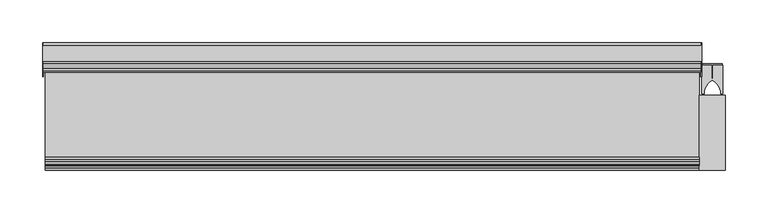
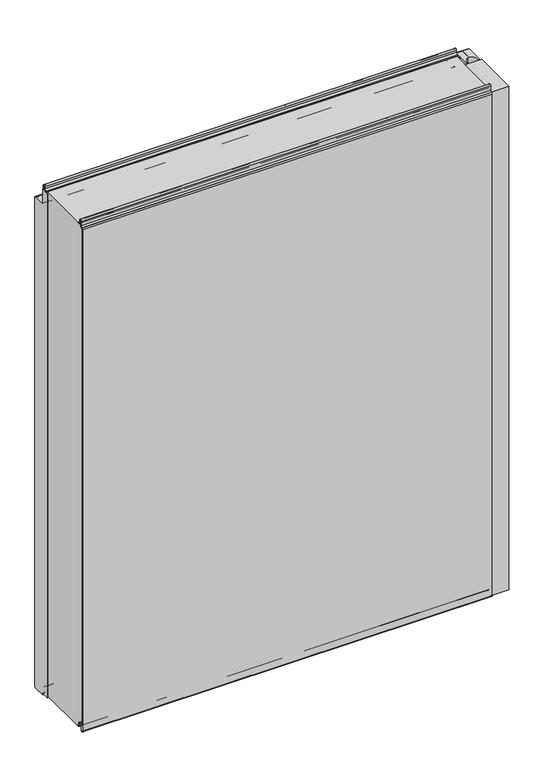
"""IFC4 building model written with IfcOpenShell, lengths in millimetres: plate geometry, Fronttop : Fronttop 150/1000."""

import ifcopenshell
import ifcopenshell.guid

model = None  # the IFC model being written
_history = None  # IfcOwnerHistory: only IFC2X3 demands one
_inside = {}  # id of a spatial element -> (the spatial element, [elements in it])
_under = {}  # id of a project, library or spatial element -> (it, [spatial elements below it])
_declared = {}  # id of a project -> (the project, [libraries it declares])
_typed = {}  # id of a type object -> (the type object, [elements of that type])
_made_of = {}  # id of a material, layer set ... -> (it, [elements and type objects made of it])


def new_model(schema):
    """Start an empty IFC model of exactly this schema.

    Asked for "IFC4X3", IfcOpenShell would pick the latest addendum, in which some entities
    have other attributes; the version numbers below select the first issue.
    IFC2X3 requires an IfcOwnerHistory on every rooted entity: one is made here for all.
    """
    global model, _history
    if schema == "IFC4X3":
        model = ifcopenshell.file(schema_version=(4, 3, 0, 0))
    else:
        model = ifcopenshell.file(schema=schema)
    _inside.clear()
    _under.clear()
    _declared.clear()
    _typed.clear()
    _made_of.clear()
    _history = None
    if model.schema == "IFC2X3":
        org = make("IfcOrganization", Name="unknown")
        user = make(
            "IfcPersonAndOrganization",
            ThePerson=make("IfcPerson", FamilyName="unknown"),
            TheOrganization=org,
        )
        app = make(
            "IfcApplication",
            ApplicationDeveloper=org,
            Version="unknown",
            ApplicationFullName="unknown",
            ApplicationIdentifier="unknown",
        )
        _history = make(
            "IfcOwnerHistory",
            OwningUser=user,
            OwningApplication=app,
            ChangeAction="ADDED",
            CreationDate=0,
        )
    return model


def make(cls, **values):
    """One entity of the class cls with the attributes given. An attribute that is None is left unset."""
    return model.create_entity(
        cls, **{name: value for name, value in values.items() if value is not None}
    )


def rooted(cls, **values):
    """An entity with a GlobalId (a new one), such as an element, a storey or a relation."""
    return make(cls, GlobalId=ifcopenshell.guid.new(), OwnerHistory=_history, **values)


def si_unit(unit_type, name, prefix=None):
    """IfcSIUnit, for example si_unit("LENGTHUNIT", "METRE", prefix="MILLI")."""
    return make("IfcSIUnit", UnitType=unit_type, Prefix=prefix, Name=name)


def assignment(units):
    """IfcUnitAssignment: the units of a project."""
    return None if units is None else make("IfcUnitAssignment", Units=units)


def point(xyz):
    """IfcCartesianPoint."""
    return None if xyz is None else make("IfcCartesianPoint", Coordinates=xyz)


def direction(xyz):
    """IfcDirection."""
    return None if xyz is None else make("IfcDirection", DirectionRatios=xyz)


def frame(location, z_axis=None, x_axis=None):
    """IfcAxis2Placement3D, a coordinate frame: its origin and axes. An axis left out is left unset."""
    return make(
        "IfcAxis2Placement3D",
        Location=point(location),
        Axis=direction(z_axis),
        RefDirection=direction(x_axis),
    )


def frame_2d(location, x_axis=None):
    """IfcAxis2Placement2D, a coordinate frame in the plane: its origin and x axis."""
    return make(
        "IfcAxis2Placement2D", Location=point(location), RefDirection=direction(x_axis)
    )


def origin():
    """The frame at (0, 0, 0) with its axes left unset."""
    return frame((0.0, 0.0, 0.0))


def origin_with_axes():
    """The frame at (0, 0, 0) with the z axis (0, 0, 1) and the x axis (1, 0, 0) written out."""
    return frame((0.0, 0.0, 0.0), z_axis=(0.0, 0.0, 1.0), x_axis=(1.0, 0.0, 0.0))


def place(relative_to, where):
    """IfcLocalPlacement: puts the frame where relative to a parent placement (None: the world)."""
    return make(
        "IfcLocalPlacement", PlacementRelTo=relative_to, RelativePlacement=where
    )


def context(
    kind, dimensions, precision=None, world=None, true_north=None, identifier=None
):
    """IfcGeometricRepresentationContext, for example the 3D "Model" context."""
    return make(
        "IfcGeometricRepresentationContext",
        ContextIdentifier=identifier,
        ContextType=kind,
        CoordinateSpaceDimension=dimensions,
        Precision=precision,
        WorldCoordinateSystem=world,
        TrueNorth=true_north,
    )


def project(units=None, contexts=None):
    """IfcProject with its units and contexts."""
    return rooted(
        "IfcProject",
        Name="project",
        RepresentationContexts=contexts,
        UnitsInContext=assignment(units),
    )


def spatial(cls, under=None, at=None, **own):
    """A site, building, storey or space (cls), placed at a placement, below another one or the project."""
    s = rooted(cls, ObjectPlacement=at, **own)
    if under is not None:
        _under.setdefault(under.id(), (under, []))[1].append(s)
    return s


def polyline(points):
    """IfcPolyline through the points."""
    return make("IfcPolyline", Points=[point(p) for p in points])


def circle_curve(where, radius):
    """IfcCircle in the frame where."""
    return make("IfcCircle", Position=where, Radius=radius)


def trimmed(basis, trim1, trim2, sense, master):
    """IfcTrimmedCurve: the piece of a basis curve between two trims."""
    return make(
        "IfcTrimmedCurve",
        BasisCurve=basis,
        Trim1=trim1,
        Trim2=trim2,
        SenseAgreement=sense,
        MasterRepresentation=master,
    )


def segment(curve, same_sense, transition):
    """IfcCompositeCurveSegment."""
    return make(
        "IfcCompositeCurveSegment",
        Transition=transition,
        SameSense=same_sense,
        ParentCurve=curve,
    )


def composite_curve(segments, self_intersect=None):
    """IfcCompositeCurve: segments joined end to end."""
    return make("IfcCompositeCurve", Segments=segments, SelfIntersect=self_intersect)


def outline(outer, holes=None, kind="AREA"):
    """IfcArbitraryClosedProfileDef: a profile drawn as a closed curve; with holes, ...WithVoids."""
    if holes is None:
        return make("IfcArbitraryClosedProfileDef", ProfileType=kind, OuterCurve=outer)
    return make(
        "IfcArbitraryProfileDefWithVoids",
        ProfileType=kind,
        OuterCurve=outer,
        InnerCurves=holes,
    )


def extrude(swept, where, along, depth):
    """IfcExtrudedAreaSolid: the profile swept, set in the frame where, extruded along a direction by depth."""
    return make(
        "IfcExtrudedAreaSolid",
        SweptArea=swept,
        Position=where,
        ExtrudedDirection=direction(along),
        Depth=depth,
    )


def shape(context_of_items, identifier, shape_type, items):
    """IfcShapeRepresentation: the items that make up one representation, for example the "Body"."""
    return make(
        "IfcShapeRepresentation",
        ContextOfItems=context_of_items,
        RepresentationIdentifier=identifier,
        RepresentationType=shape_type,
        Items=items,
    )


def source(mapping_origin, context_of_items, identifier, shape_type, items):
    """IfcRepresentationMap: a shape defined once, which mapped items show again and again."""
    return make(
        "IfcRepresentationMap",
        MappingOrigin=mapping_origin,
        MappedRepresentation=shape(context_of_items, identifier, shape_type, items),
    )


def transform(
    local_origin,
    x_axis=None,
    y_axis=None,
    z_axis=None,
    scale=None,
    scale2=None,
    scale3=None,
    uniform=True,
):
    """IfcCartesianTransformationOperator3D, or its non-uniform kind. x_axis, y_axis, z_axis: its Axis1, 2, 3."""
    if uniform:
        return make(
            "IfcCartesianTransformationOperator3D",
            Axis1=direction(x_axis),
            Axis2=direction(y_axis),
            LocalOrigin=point(local_origin),
            Scale=scale,
            Axis3=direction(z_axis),
        )
    return make(
        "IfcCartesianTransformationOperator3DnonUniform",
        Axis1=direction(x_axis),
        Axis2=direction(y_axis),
        LocalOrigin=point(local_origin),
        Scale=scale,
        Axis3=direction(z_axis),
        Scale2=scale2,
        Scale3=scale3,
    )


def mapped(mapping_source, mapping_target):
    """IfcMappedItem: shows the shape of a source again, moved by a transform."""
    return make(
        "IfcMappedItem", MappingSource=mapping_source, MappingTarget=mapping_target
    )


def made_of(thing, what):
    """Note that an element or type object is made of a material, layer set ...; save() writes the relation."""
    if what is not None:
        _made_of.setdefault(what.id(), (what, []))[1].append(thing)
    return thing


def element(
    cls,
    number,
    at=None,
    inside=None,
    cuts=None,
    type_object=None,
    material=None,
    context=None,
    identifier="Body",
    shape_type=None,
    held_by="IfcProductDefinitionShape",
    body=None,
    shapes=None,
    **own,
):
    """One element of the class cls, such as IfcWall. Its Tag is "e" and its number.

    at: its placement. inside: the storey or other place that contains it. cuts: it is an
    opening in that element (IfcRelVoidsElement). A single representation is given by context,
    identifier, shape_type and body (its items); several are given by shapes. held_by: the class
    of the entity that holds the representations. save() writes the other relations.
    """
    e = rooted(cls, Tag="e%d" % number, ObjectPlacement=at, **own)
    if body is not None:
        shapes = [shape(context, identifier, shape_type, body)]
    if shapes is not None:
        e.Representation = make(held_by, Representations=shapes)
    if inside is not None:
        _inside.setdefault(inside.id(), (inside, []))[1].append(e)
    if cuts is not None:
        rooted(
            "IfcRelVoidsElement", RelatingBuildingElement=cuts, RelatedOpeningElement=e
        )
    if type_object is not None:
        _typed.setdefault(type_object.id(), (type_object, []))[1].append(e)
    return made_of(e, material)


def aggregate(whole, parts):
    """IfcRelAggregates: a whole, such as a stair, and the parts it consists of."""
    return rooted("IfcRelAggregates", RelatingObject=whole, RelatedObjects=parts)


def save(model, path):
    """Write the relations noted so far, then the file.

    IfcRelAggregates (storeys below a building ...), IfcRelContainedInSpatialStructure (elements
    in a storey), IfcRelDefinesByType, IfcRelAssociatesMaterial and IfcRelDeclares: one each for
    every whole, place, type object, material and project.
    """
    for whole, parts in _under.values():
        aggregate(whole, parts)
    for where, things in _inside.values():
        rooted(
            "IfcRelContainedInSpatialStructure",
            RelatedElements=things,
            RelatingStructure=where,
        )
    for kind, things in _typed.values():
        rooted("IfcRelDefinesByType", RelatedObjects=things, RelatingType=kind)
    for what, things in _made_of.values():
        rooted("IfcRelAssociatesMaterial", RelatedObjects=things, RelatingMaterial=what)
    for by, libraries in _declared.values():
        rooted("IfcRelDeclares", RelatingContext=by, RelatedDefinitions=libraries)
    model.write(path)


def plane_surface(at):
    """IfcPlane: the flat surface through the origin of the frame at, square to its z axis."""
    return make("IfcPlane", Position=at)


def cylinder_surface(at, radius):
    """IfcCylindricalSurface: all points at the distance radius from the z axis of the frame at."""
    return make("IfcCylindricalSurface", Position=at, Radius=radius)


def revolved_surface(curve, axis_point, axis_direction):
    """IfcSurfaceOfRevolution: the curve turned about the line through axis_point along axis_direction."""
    return make(
        "IfcSurfaceOfRevolution",
        SweptCurve=make("IfcArbitraryOpenProfileDef", ProfileType="CURVE", Curve=curve),
        AxisPosition=make("IfcAxis1Placement", Location=point(axis_point), Axis=direction(axis_direction)),
    )


def advanced_brep(points, edges, surfaces, faces):
    """IfcAdvancedBrep: a solid bounded by faces that lie on surfaces and meet in shared edges.

    An edge is (start, end): straight between two places in points (the first is 0);
    or (start, end, curve); or (start, end, curve, False) where it runs against its curve.
    A face is (place in surfaces, loops), or (place, loops, False) where it looks against
    its surface's normal. A loop lists edges by number (the first is 1), with a minus sign
    where the edge is run from its end to its start. The first loop is the outer one.
    """
    corners = [point(p) for p in points]
    vertices = [make("IfcVertexPoint", VertexGeometry=c) for c in corners]
    made = []
    for start, end, *more in edges:
        made.append(
            make(
                "IfcEdgeCurve",
                EdgeStart=vertices[start],
                EdgeEnd=vertices[end],
                EdgeGeometry=more[0] if more else make("IfcPolyline", Points=[corners[start], corners[end]]),
                SameSense=more[1] if len(more) > 1 else True,
            )
        )
    hull = []
    for where, loops, *sense in faces:
        bounds = []
        for j, loop in enumerate(loops):
            ring = [make("IfcOrientedEdge", EdgeElement=made[abs(k) - 1], Orientation=k > 0) for k in loop]
            bounds.append(
                make(
                    "IfcFaceOuterBound" if j == 0 else "IfcFaceBound",
                    Bound=make("IfcEdgeLoop", EdgeList=ring),
                    Orientation=True,
                )
            )
        hull.append(make("IfcAdvancedFace", Bounds=bounds, FaceSurface=surfaces[where], SameSense=sense[0] if sense else True))
    return make("IfcAdvancedBrep", Outer=make("IfcClosedShell", CfsFaces=hull))


def plate_a95caa87(model_context):
    return source(origin(), model_context, "Body", "SolidModel", [
        advanced_brep(
        [(-386.5, 124.0, 1008.0), (-386.5, 121.0, 1008.0), (-386.5, 121.0, 1004.0), (-386.5, 117.0, 1000.0), (-386.5, 115.0, 1000.0), (-386.5, 115.0, 1001.0), (-386.5, 117.0, 1001.0), (-386.5, 120.0, 1004.0), (-386.5, 120.0, 1008.0), (-386.5, 125.0, 1008.0), (-386.5, 125.0, 1000.0), (-386.5, 124.0, 1000.0), (386.5, 125.0, 1008.0), (386.5, 120.0, 1008.0), (386.5, 120.0, 1004.0), (386.5, 117.0, 1001.0), (386.5, 115.0, 1001.0), (386.5, 115.0, 1000.0), (386.5, 117.0, 1000.0), (386.5, 121.0, 1004.0), (386.5, 121.0, 1008.0), (386.5, 124.0, 1008.0), (386.5, 124.0, 1000.0), (386.5, 125.0, 1000.0), (-386.5, 117.0, 2.0), (386.5, 117.0, 2.0), (386.5, 115.0, 2.0), (-386.5, 115.0, 2.0), (-386.5, 119.0, 4.0), (386.5, 119.0, 4.0), (-386.5, 119.0, 8.0), (386.5, 119.0, 8.0), (-386.5, 126.0, 8.0), (386.5, 126.0, 8.0), (-386.5, 126.0, 0.0), (386.5, 126.0, 0.0), (-386.5, 129.0, -3.0), (386.5, 129.0, -3.0), (-386.5, 125.0, -3.0), (-387.5, 125.0, -3.0), (-387.5, 147.0, -3.0), (-386.5, 147.0, -3.0), (386.5, 147.0, -3.0), (387.5, 147.0, -3.0), (387.5, 125.0, -3.0), (386.5, 125.0, -3.0), (-386.5, 150.0, 0.0), (386.5, 150.0, 0.0), (-387.5, 150.0, 0.0), (-387.5, 150.0, 969.0), (-386.5, 150.0, 969.0), (386.5, 150.0, 969.0), (387.5, 150.0, 969.0), (387.5, 150.0, 0.0), (-386.5, 147.0, 972.0), (386.5, 147.0, 972.0), (-387.5, 147.0, 972.0), (-387.5, 128.0, 972.0), (-386.5, 128.0, 972.0), (386.5, 128.0, 972.0), (387.5, 128.0, 972.0), (387.5, 147.0, 972.0), (-386.5, 125.0, 975.0), (386.5, 125.0, 975.0), (-387.5, 125.0, 975.0), (-387.5, 125.0, 1000.0), (387.5, 125.0, 1000.0), (387.5, 125.0, 975.0), (-386.5, 124.0, 975.0), (386.5, 124.0, 975.0), (-386.5, 128.0, 971.0), (386.5, 128.0, 971.0), (-386.5, 147.0, 971.0), (386.5, 147.0, 971.0), (-386.5, 149.0, 969.0), (386.5, 149.0, 969.0), (-386.5, 149.0, 0.0), (386.5, 149.0, 0.0), (-386.5, 147.0, -2.0), (386.5, 147.0, -2.0), (-386.5, 129.0, -2.0), (386.5, 129.0, -2.0), (-386.5, 127.0, 0.0), (386.5, 127.0, 0.0), (-386.5, 127.0, 8.0), (386.5, 127.0, 8.0), (-386.5, 118.0, 8.0), (386.5, 118.0, 8.0), (-386.5, 118.0, 4.0), (386.5, 118.0, 4.0), (-386.5, 117.0, 3.0), (386.5, 117.0, 3.0), (-386.5, 115.0, 3.0), (386.5, 115.0, 3.0), (387.5, 110.0, 1000.0), (387.5, 110.0, 0.0), (387.5, 125.0, 0.0), (386.5, 125.0, 0.0), (386.5, 110.0, 0.0), (386.5, 110.0, 1000.0), (-387.5, 125.0, 0.0), (-387.5, 110.0, 0.0), (-387.5, 110.0, 1000.0), (-386.5, 110.0, 1000.0), (-386.5, 110.0, 0.0), (-386.5, 125.0, 0.0)],
        [
            (0, 1, circle_curve(frame((-386.5, 122.5, 1008.0), z_axis=(1.0, 0.0, 0.0), x_axis=(0.0, -1.0, 0.0)), 1.5)),
            (1, 2),
            (2, 3, circle_curve(frame((-386.5, 117.0, 1004.0), z_axis=(-1.0, 0.0, 0.0), x_axis=(0.0, -1.0, 0.0)), 4.0)),
            (3, 4),
            (4, 5),
            (5, 6),
            (6, 7, circle_curve(frame((-386.5, 117.0, 1004.0), z_axis=(1.0, 0.0, 0.0), x_axis=(0.0, -1.0, 0.0)), 3.0)),
            (7, 8),
            (8, 9, circle_curve(frame((-386.5, 122.5, 1008.0), z_axis=(-1.0, 0.0, 0.0), x_axis=(0.0, -1.0, 0.0)), 2.5)),
            (9, 10),
            (10, 11),
            (11, 0),
            (12, 13, circle_curve(frame((386.5, 122.5, 1008.0), z_axis=(1.0, 0.0, 0.0), x_axis=(0.0, -1.0, 0.0)), 2.5)),
            (13, 14),
            (14, 15, circle_curve(frame((386.5, 117.0, 1004.0), z_axis=(-1.0, 0.0, 0.0), x_axis=(0.0, -1.0, 0.0)), 3.0)),
            (15, 16),
            (16, 17),
            (17, 18),
            (18, 19, circle_curve(frame((386.5, 117.0, 1004.0), z_axis=(1.0, 0.0, 0.0), x_axis=(0.0, -1.0, 0.0)), 4.0)),
            (19, 20),
            (20, 21, circle_curve(frame((386.5, 122.5, 1008.0), z_axis=(-1.0, 0.0, 0.0), x_axis=(0.0, -1.0, 0.0)), 1.5)),
            (21, 22),
            (22, 23),
            (23, 12),
            (24, 25),
            (25, 26),
            (26, 27),
            (27, 24),
            (24, 28, circle_curve(frame((-386.5, 117.0, 4.0), z_axis=(1.0, 0.0, 0.0), x_axis=(0.0, -1.0, 0.0)), 2.0)),
            (28, 29),
            (29, 25, circle_curve(frame((386.5, 117.0, 4.0), z_axis=(-1.0, 0.0, 0.0), x_axis=(0.0, -1.0, 0.0)), 2.0)),
            (28, 30),
            (30, 31),
            (31, 29),
            (30, 32, circle_curve(frame((-386.5, 122.5, 8.0), z_axis=(-1.0, 0.0, 0.0), x_axis=(0.0, -1.0, 0.0)), 3.5)),
            (32, 33),
            (33, 31, circle_curve(frame((386.5, 122.5, 8.0), z_axis=(1.0, 0.0, 0.0), x_axis=(0.0, -1.0, 0.0)), 3.5)),
            (32, 34),
            (34, 35),
            (35, 33),
            (34, 36, circle_curve(frame((-386.5, 129.0, 0.0), z_axis=(1.0, 0.0, 0.0), x_axis=(0.0, -1.0, 0.0)), 3.0)),
            (36, 37),
            (37, 35, circle_curve(frame((386.5, 129.0, 0.0), z_axis=(-1.0, 0.0, 0.0), x_axis=(0.0, -1.0, 0.0)), 3.0)),
            (36, 38),
            (38, 39),
            (39, 40),
            (40, 41),
            (41, 42),
            (42, 43),
            (43, 44),
            (44, 45),
            (45, 37),
            (41, 46, circle_curve(frame((-386.5, 147.0, 0.0), z_axis=(1.0, 0.0, 0.0), x_axis=(0.0, -1.0, 0.0)), 3.0)),
            (46, 47),
            (47, 42, circle_curve(frame((386.5, 147.0, 0.0), z_axis=(-1.0, 0.0, 0.0), x_axis=(0.0, -1.0, 0.0)), 3.0)),
            (46, 48),
            (48, 49),
            (49, 50),
            (50, 51),
            (51, 52),
            (52, 53),
            (53, 47),
            (50, 54, circle_curve(frame((-386.5, 147.0, 969.0), z_axis=(1.0, 0.0, 0.0), x_axis=(0.0, -1.0, 0.0)), 3.0)),
            (54, 55),
            (55, 51, circle_curve(frame((386.5, 147.0, 969.0), z_axis=(-1.0, 0.0, 0.0), x_axis=(0.0, -1.0, 0.0)), 3.0)),
            (54, 56),
            (56, 57),
            (57, 58),
            (58, 59),
            (59, 60),
            (60, 61),
            (61, 55),
            (58, 62, circle_curve(frame((-386.5, 128.0, 975.0), z_axis=(-1.0, 0.0, 0.0), x_axis=(0.0, -1.0, 0.0)), 3.0)),
            (62, 63),
            (63, 59, circle_curve(frame((386.5, 128.0, 975.0), z_axis=(1.0, 0.0, 0.0), x_axis=(0.0, -1.0, 0.0)), 3.0)),
            (62, 64),
            (64, 65),
            (65, 10),
            (9, 12),
            (23, 66),
            (66, 67),
            (67, 63),
            (8, 13),
            (7, 14),
            (6, 15),
            (5, 16),
            (4, 17),
            (4, 3),
            (3, 18),
            (18, 17),
            (2, 19),
            (1, 20),
            (0, 21),
            (11, 68),
            (68, 69),
            (69, 22),
            (68, 70, circle_curve(frame((-386.5, 128.0, 975.0), z_axis=(1.0, 0.0, 0.0), x_axis=(0.0, -1.0, 0.0)), 4.0)),
            (70, 71),
            (71, 69, circle_curve(frame((386.5, 128.0, 975.0), z_axis=(-1.0, 0.0, 0.0), x_axis=(0.0, -1.0, 0.0)), 4.0)),
            (70, 72),
            (72, 73),
            (73, 71),
            (72, 74, circle_curve(frame((-386.5, 147.0, 969.0), z_axis=(-1.0, 0.0, 0.0), x_axis=(0.0, -1.0, 0.0)), 2.0)),
            (74, 75),
            (75, 73, circle_curve(frame((386.5, 147.0, 969.0), z_axis=(1.0, 0.0, 0.0), x_axis=(0.0, -1.0, 0.0)), 2.0)),
            (74, 76),
            (76, 77),
            (77, 75),
            (76, 78, circle_curve(frame((-386.5, 147.0, 0.0), z_axis=(-1.0, 0.0, 0.0), x_axis=(0.0, -1.0, 0.0)), 2.0)),
            (78, 79),
            (79, 77, circle_curve(frame((386.5, 147.0, 0.0), z_axis=(1.0, 0.0, 0.0), x_axis=(0.0, -1.0, 0.0)), 2.0)),
            (78, 80),
            (80, 81),
            (81, 79),
            (80, 82, circle_curve(frame((-386.5, 129.0, 0.0), z_axis=(-1.0, 0.0, 0.0), x_axis=(0.0, -1.0, 0.0)), 2.0)),
            (82, 83),
            (83, 81, circle_curve(frame((386.5, 129.0, 0.0), z_axis=(1.0, 0.0, 0.0), x_axis=(0.0, -1.0, 0.0)), 2.0)),
            (82, 84),
            (84, 85),
            (85, 83),
            (84, 86, circle_curve(frame((-386.5, 122.5, 8.0), z_axis=(1.0, 0.0, 0.0), x_axis=(0.0, -1.0, 0.0)), 4.5)),
            (86, 87),
            (87, 85, circle_curve(frame((386.5, 122.5, 8.0), z_axis=(-1.0, 0.0, 0.0), x_axis=(0.0, -1.0, 0.0)), 4.5)),
            (86, 88),
            (88, 89),
            (89, 87),
            (88, 90, circle_curve(frame((-386.5, 117.0, 4.0), z_axis=(-1.0, 0.0, 0.0), x_axis=(0.0, -1.0, 0.0)), 1.0)),
            (90, 91),
            (91, 89, circle_curve(frame((386.5, 117.0, 4.0), z_axis=(1.0, 0.0, 0.0), x_axis=(0.0, -1.0, 0.0)), 1.0)),
            (90, 92),
            (92, 93),
            (93, 91),
            (26, 93),
            (92, 27),
            (66, 94),
            (94, 95),
            (95, 96),
            (96, 44),
            (43, 53, circle_curve(frame((387.5, 147.0, 0.0), z_axis=(1.0, 0.0, 0.0), x_axis=(0.0, 1.0, 0.0)), 3.0)),
            (52, 61, circle_curve(frame((387.5, 147.0, 969.0), z_axis=(1.0, 0.0, 0.0), x_axis=(0.0, 1.0, 0.0)), 3.0)),
            (60, 67, circle_curve(frame((387.5, 128.0, 975.0), z_axis=(-1.0, 0.0, 0.0), x_axis=(0.0, 1.0, 0.0)), 3.0)),
            (45, 97),
            (97, 98),
            (98, 99),
            (99, 17),
            (18, 22),
            (99, 94),
            (98, 95),
            (97, 96),
            (64, 57, circle_curve(frame((-387.5, 128.0, 975.0), z_axis=(1.0, 0.0, 0.0), x_axis=(0.0, 1.0, 0.0)), 3.0)),
            (56, 49, circle_curve(frame((-387.5, 147.0, 969.0), z_axis=(-1.0, 0.0, 0.0), x_axis=(0.0, 1.0, 0.0)), 3.0)),
            (48, 40, circle_curve(frame((-387.5, 147.0, 0.0), z_axis=(-1.0, 0.0, 0.0), x_axis=(0.0, 1.0, 0.0)), 3.0)),
            (39, 100),
            (100, 101),
            (101, 102),
            (102, 65),
            (103, 104),
            (104, 105),
            (105, 38),
            (11, 3),
            (4, 103),
            (102, 103),
            (101, 104),
            (100, 105),
        ],
        [
            plane_surface(frame((-386.5, 0.0, 0.0), z_axis=(-1.0, 0.0, 0.0), x_axis=(0.0, 0.0, 1.0))),
            plane_surface(frame((386.5, 0.0, 0.0), z_axis=(1.0, 0.0, 0.0), x_axis=(0.0, 0.0, 1.0))),
            plane_surface(frame((-386.5, 117.0, 2.0), z_axis=(0.0, 0.0, -1.0), x_axis=(1.0, 0.0, 0.0))),
            cylinder_surface(frame((-386.5, 117.0, 4.0), z_axis=(-1.0, 0.0, 0.0), x_axis=(0.0, -1.0, 0.0)), 2.0),
            plane_surface(frame((-386.5, 119.0, 8.0), z_axis=(0.0, 1.0, 0.0), x_axis=(1.0, 0.0, 0.0))),
            revolved_surface(polyline([(386.5, 119.0, 8.0), (-386.5, 119.0, 8.0)]), (-386.5, 122.5, 8.0), (1.0, 0.0, 0.0)),
            plane_surface(frame((-386.5, 126.0, 0.0), z_axis=(0.0, -1.0, 0.0), x_axis=(1.0, 0.0, 0.0))),
            cylinder_surface(frame((-386.5, 129.0, 0.0), z_axis=(-1.0, 0.0, 0.0), x_axis=(0.0, -1.0, 0.0)), 3.0),
            plane_surface(frame((-386.5, 147.0, -3.0), z_axis=(0.0, 0.0, -1.0), x_axis=(1.0, 0.0, 0.0))),
            cylinder_surface(frame((-386.5, 147.0, 0.0), z_axis=(-1.0, 0.0, 0.0), x_axis=(0.0, -1.0, 0.0)), 3.0),
            plane_surface(frame((-386.5, 150.0, 969.0), z_axis=(0.0, 1.0, 0.0), x_axis=(1.0, 0.0, 0.0))),
            cylinder_surface(frame((-386.5, 147.0, 969.0), z_axis=(-1.0, 0.0, 0.0), x_axis=(0.0, -1.0, 0.0)), 3.0),
            plane_surface(frame((-386.5, 128.0, 972.0), z_axis=(0.0, 0.0, 1.0), x_axis=(1.0, 0.0, 0.0))),
            revolved_surface(polyline([(386.5, 125.0, 975.0), (-386.5, 125.0, 975.0)]), (-386.5, 128.0, 975.0), (1.0, 0.0, 0.0)),
            plane_surface(frame((-386.5, 125.0, 1008.0), z_axis=(0.0, 1.0, 0.0), x_axis=(1.0, 0.0, 0.0))),
            cylinder_surface(frame((-386.5, 122.5, 1008.0), z_axis=(-1.0, 0.0, 0.0), x_axis=(0.0, -1.0, 0.0)), 2.5),
            plane_surface(frame((-386.5, 120.0, 1004.0), z_axis=(0.0, -1.0, 0.0), x_axis=(1.0, 0.0, 0.0))),
            revolved_surface(polyline([(386.5, 114.0, 1004.0), (-386.5, 114.0, 1004.0)]), (-386.5, 117.0, 1004.0), (1.0, 0.0, 0.0)),
            plane_surface(frame((-386.5, 115.0, 1001.0), z_axis=(0.0, 0.0, 1.0), x_axis=(1.0, 0.0, 0.0))),
            plane_surface(frame((-386.5, 115.0, 1000.0), z_axis=(0.0, -1.0, 0.0), x_axis=(1.0, 0.0, 0.0))),
            plane_surface(frame((-386.5, 117.0, 1000.0), z_axis=(0.0, 0.0, -1.0), x_axis=(1.0, 0.0, 0.0))),
            cylinder_surface(frame((-386.5, 117.0, 1004.0), z_axis=(-1.0, 0.0, 0.0), x_axis=(0.0, -1.0, 0.0)), 4.0),
            plane_surface(frame((-386.5, 121.0, 1008.0), z_axis=(0.0, 1.0, 0.0), x_axis=(1.0, 0.0, 0.0))),
            revolved_surface(polyline([(386.5, 121.0, 1008.0), (-386.5, 121.0, 1008.0)]), (-386.5, 122.5, 1008.0), (1.0, 0.0, 0.0)),
            plane_surface(frame((-386.5, 124.0, 975.0), z_axis=(0.0, -1.0, 0.0), x_axis=(1.0, 0.0, 0.0))),
            cylinder_surface(frame((-386.5, 128.0, 975.0), z_axis=(-1.0, 0.0, 0.0), x_axis=(0.0, -1.0, 0.0)), 4.0),
            plane_surface(frame((-386.5, 147.0, 971.0), z_axis=(0.0, 0.0, -1.0), x_axis=(1.0, 0.0, 0.0))),
            revolved_surface(polyline([(386.5, 145.0, 969.0), (-386.5, 145.0, 969.0)]), (-386.5, 147.0, 969.0), (1.0, 0.0, 0.0)),
            plane_surface(frame((-386.5, 149.0, 0.0), z_axis=(0.0, -1.0, 0.0), x_axis=(1.0, 0.0, 0.0))),
            revolved_surface(polyline([(386.5, 145.0, 0.0), (-386.5, 145.0, 0.0)]), (-386.5, 147.0, 0.0), (1.0, 0.0, 0.0)),
            plane_surface(frame((-386.5, 129.0, -2.0), z_axis=(0.0, 0.0, 1.0), x_axis=(1.0, 0.0, 0.0))),
            revolved_surface(polyline([(386.5, 127.0, 0.0), (-386.5, 127.0, 0.0)]), (-386.5, 129.0, 0.0), (1.0, 0.0, 0.0)),
            plane_surface(frame((-386.5, 127.0, 8.0), z_axis=(0.0, 1.0, 0.0), x_axis=(1.0, 0.0, 0.0))),
            cylinder_surface(frame((-386.5, 122.5, 8.0), z_axis=(-1.0, 0.0, 0.0), x_axis=(0.0, -1.0, 0.0)), 4.5),
            plane_surface(frame((-386.5, 118.0, 4.0), z_axis=(0.0, -1.0, 0.0), x_axis=(1.0, 0.0, 0.0))),
            revolved_surface(polyline([(386.5, 116.0, 4.0), (-386.5, 116.0, 4.0)]), (-386.5, 117.0, 4.0), (1.0, 0.0, 0.0)),
            plane_surface(frame((-386.5, 115.0, 3.0), z_axis=(0.0, 0.0, 1.0), x_axis=(1.0, 0.0, 0.0))),
            plane_surface(frame((-386.5, 115.0, 2.0), z_axis=(0.0, -1.0, 0.0), x_axis=(1.0, 0.0, 0.0))),
            plane_surface(frame((387.5, 125.0, 1000.0), z_axis=(1.0, 0.0, 0.0), x_axis=(0.0, -1.0, 0.0))),
            plane_surface(frame((386.5, 125.0, 1000.0), z_axis=(-1.0, 0.0, 0.0), x_axis=(0.0, 1.0, 0.0))),
            plane_surface(frame((387.5, 125.0, 1000.0), z_axis=(0.0, 0.0, 1.0), x_axis=(-1.0, 0.0, 0.0))),
            plane_surface(frame((387.5, 110.0, 1000.0), z_axis=(0.0, -1.0, 0.0), x_axis=(-1.0, 0.0, 0.0))),
            plane_surface(frame((387.5, 110.0, 0.0), z_axis=(0.0, 0.0, -1.0), x_axis=(-1.0, 0.0, 0.0))),
            cylinder_surface(frame((386.5, 147.0, 0.0), z_axis=(1.0, 0.0, 0.0), x_axis=(0.0, 1.0, 0.0)), 3.0),
            cylinder_surface(frame((386.5, 147.0, 969.0), z_axis=(1.0, 0.0, 0.0), x_axis=(0.0, 1.0, 0.0)), 3.0),
            revolved_surface(polyline([(386.5, 131.0, 975.0), (387.5, 131.0, 975.0)]), (386.5, 128.0, 975.0), (-1.0, 0.0, 0.0)),
            plane_surface(frame((-387.5, 125.0, 1000.0), z_axis=(-1.0, 0.0, 0.0), x_axis=(0.0, 1.0, 0.0))),
            plane_surface(frame((-386.5, 125.0, 1000.0), z_axis=(1.0, 0.0, 0.0), x_axis=(0.0, -1.0, 0.0))),
            plane_surface(frame((-386.5, 125.0, 1000.0), z_axis=(0.0, 0.0, 1.0), x_axis=(-1.0, 0.0, 0.0))),
            plane_surface(frame((-386.5, 110.0, 1000.0), z_axis=(0.0, -1.0, 0.0), x_axis=(-1.0, 0.0, 0.0))),
            plane_surface(frame((-386.5, 110.0, 0.0), z_axis=(0.0, 0.0, -1.0), x_axis=(-1.0, 0.0, 0.0))),
            cylinder_surface(frame((-387.5, 147.0, 0.0), z_axis=(1.0, 0.0, 0.0), x_axis=(0.0, 1.0, 0.0)), 3.0),
            cylinder_surface(frame((-387.5, 147.0, 969.0), z_axis=(1.0, 0.0, 0.0), x_axis=(0.0, 1.0, 0.0)), 3.0),
            revolved_surface(polyline([(-387.5, 131.0, 975.0), (-386.5, 131.0, 975.0)]), (-387.5, 128.0, 975.0), (-1.0, 0.0, 0.0)),
            plane_surface(frame((387.5, 125.0, 0.0), z_axis=(0.0, -1.0, 0.0), x_axis=(-1.0, 0.0, 0.0))),
            plane_surface(frame((-386.5, 125.0, 0.0), z_axis=(0.0, -1.0, 0.0), x_axis=(-1.0, 0.0, 0.0))),
        ],
        [
            (0, [[1, 2, 3, 4, 5, 6, 7, 8, 9, 10, 11, 12]]),
            (1, [[13, 14, 15, 16, 17, 18, 19, 20, 21, 22, 23, 24]]),
            (2, [[25, 26, 27, 28]]),
            (3, [[-25, 29, 30, 31]]),
            (4, [[-30, 32, 33, 34]]),
            (5, [[-33, 35, 36, 37]]),
            (6, [[-36, 38, 39, 40]]),
            (7, [[-39, 41, 42, 43]]),
            (8, [[-42, 44, 45, 46, 47, 48, 49, 50, 51, 52]]),
            (9, [[-48, 53, 54, 55]]),
            (10, [[-54, 56, 57, 58, 59, 60, 61, 62]]),
            (11, [[-59, 63, 64, 65]]),
            (12, [[-64, 66, 67, 68, 69, 70, 71, 72]]),
            (13, [[-69, 73, 74, 75]]),
            (14, [[-74, 76, 77, 78, -10, 79, -24, 80, 81, 82]]),
            (15, [[-9, 83, -13, -79]]),
            (16, [[-8, 84, -14, -83]]),
            (17, [[-7, 85, -15, -84]]),
            (18, [[-6, 86, -16, -85]]),
            (19, [[-5, 87, -17, -86]]),
            (20, [[-87, 88, 89, 90]]),
            (21, [[-3, 91, -19, -89]]),
            (22, [[-2, 92, -20, -91]]),
            (23, [[-1, 93, -21, -92]]),
            (24, [[-93, -12, 94, 95, 96, -22]]),
            (25, [[-95, 97, 98, 99]]),
            (26, [[-98, 100, 101, 102]]),
            (27, [[-101, 103, 104, 105]]),
            (28, [[-104, 106, 107, 108]]),
            (29, [[-107, 109, 110, 111]]),
            (30, [[-110, 112, 113, 114]]),
            (31, [[-113, 115, 116, 117]]),
            (32, [[-116, 118, 119, 120]]),
            (33, [[-119, 121, 122, 123]]),
            (34, [[-122, 124, 125, 126]]),
            (35, [[-125, 127, 128, 129]]),
            (36, [[-128, 130, 131, 132]]),
            (37, [[-27, 133, -131, 134]]),
            (38, [[135, 136, 137, 138, -50, 139, -61, 140, -71, 141, -81]]),
            (39, [[142, 143, 144, 145, -90, 146, -96, -99, -102, -105, -108, -111, -114, -117, -120, -123, -126, -129, -132, -133, -26, -31, -34, -37, -40, -43, -52]]),
            (40, [[-135, -80, -23, -146, -18, -145, 147]]),
            (41, [[-136, -147, -144, 148]]),
            (42, [[-137, -148, -143, 149]]),
            (43, [[-139, -49, -55, -62]]),
            (44, [[-140, -60, -65, -72]]),
            (45, [[-141, -70, -75, -82]]),
            (46, [[-77, 150, -67, 151, -57, 152, -46, 153, 154, 155, 156]]),
            (47, [[157, 158, 159, -44, -41, -38, -35, -32, -29, -28, -134, -130, -127, -124, -121, -118, -115, -112, -109, -106, -103, -100, -97, -94, 160, -88, 161]]),
            (48, [[-156, 162, -161, -4, -160, -11, -78]]),
            (49, [[-155, 163, -157, -162]]),
            (50, [[-154, 164, -158, -163]]),
            (51, [[-152, -56, -53, -47]]),
            (52, [[-151, -66, -63, -58]]),
            (53, [[-150, -76, -73, -68]]),
            (54, [[-138, -149, -142, -51]]),
            (55, [[-153, -45, -159, -164]]),
        ],
    ),
        extrude(outline(composite_curve([segment(polyline([(387.4998455, 123.5), (399.25, 123.5), (399.25, 107.5), (400.75, 107.5), (400.75, 123.5), (412.5001545, 123.5), (412.5001545, 90.0), (409.75, 90.0), (409.75, 92.5)]), True, "CONTINUOUS"), segment(trimmed(circle_curve(frame_2d((391.9661979, 89.3183984)), 18.0661619), [point((409.75, 92.5))], [point((400.0, 105.5))], True, "CARTESIAN"), True, "CONTINUOUS"), segment(trimmed(circle_curve(frame_2d((408.0338021, 89.3183984)), 18.0661619), [point((400.0, 105.5))], [point((390.25, 92.5))], True, "CARTESIAN"), True, "CONTINUOUS"), segment(polyline([(390.25, 92.5), (390.25, 90.0), (387.4998455, 90.0), (387.4998455, 123.5)]), True, "CONTINUOUS")], self_intersect=False)), origin_with_axes(), (0.0, 0.0, 1.0), 1000.0),
        extrude(outline(polyline([(415.5, 0.0), (384.5, 0.0), (384.5, 88.0), (415.5, 88.0), (415.5, 0.0)])), origin_with_axes(), (0.0, 0.0, 1.0), 1000.0),
        extrude(outline(polyline([(388.4948846, 125.0), (411.5051154, 125.0), (411.5051154, 123.5), (400.6502496, 123.5), (400.6502496, 109.0759655), (399.35, 109.0759655), (399.35, 123.5), (388.4948846, 123.5), (388.4948846, 125.0)])), origin_with_axes(), (0.0, 0.0, 1.0), 1000.0),
        advanced_brep(
        [(-384.5, 13.0, 1001.0), (-384.5, 15.0, 1001.0), (-384.5, 15.0, 1000.0), (-384.5, 13.0, 1000.0), (-384.5, 9.0, 1004.0), (-384.5, 9.0, 1008.0), (-384.5, 6.0, 1008.0), (-384.5, 6.0, 999.5), (-384.5, 2.1134897, 996.0214069), (-384.5, 1.0, 995.0), (-384.5, 1.0, -0.5), (-384.5, 3.0, -0.5), (-384.5, 3.0, 8.0), (-384.5, 12.0, 8.0), (-384.5, 12.0, 4.0), (-384.5, 13.0, 3.0), (-384.5, 15.0, 3.0), (-384.5, 15.0, 2.0), (-384.5, 13.0, 2.0), (-384.5, 11.0, 4.0), (-384.5, 11.0, 8.0), (-384.5, 4.0, 8.0), (-384.5, 4.0, -0.5), (-384.5, 0.0, -0.5), (-384.5, 0.0, 995.0), (-384.5, 2.220863, 996.9877675), (-384.5, 5.0, 999.5), (-384.5, 5.0, 1008.0), (-384.5, 10.0, 1008.0), (-384.5, 10.0, 1004.0), (384.5, 13.0, 1001.0), (384.5, 10.0, 1004.0), (384.5, 10.0, 1008.0), (384.5, 5.0, 1008.0), (384.5, 5.0, 999.5), (384.5, 2.2239212, 997.0152907), (384.5, 0.0, 995.0), (384.5, 0.0, -0.5), (384.5, 4.0, -0.5), (384.5, 4.0, 8.0), (384.5, 11.0, 8.0), (384.5, 11.0, 4.0), (384.5, 13.0, 2.0), (384.5, 15.0, 2.0), (384.5, 15.0, 3.0), (384.5, 13.0, 3.0), (384.5, 12.0, 4.0), (384.5, 12.0, 8.0), (384.5, 3.0, 8.0), (384.5, 3.0, -0.5), (384.5, 1.0, -0.5), (384.5, 1.0, 995.0), (384.5, 2.1104315, 995.9938837), (384.5, 6.0, 999.5), (384.5, 6.0, 1008.0), (384.5, 9.0, 1008.0), (384.5, 9.0, 1004.0), (384.5, 13.0, 1000.0), (384.5, 15.0, 1000.0), (384.5, 15.0, 1001.0)],
        [
            (0, 1),
            (1, 2),
            (2, 3),
            (3, 4, circle_curve(frame((-384.5, 13.0, 1004.0), z_axis=(-1.0, 0.0, 0.0), x_axis=(0.0, -1.0, 0.0)), 4.0)),
            (4, 5),
            (5, 6, circle_curve(frame((-384.5, 7.5, 1008.0), z_axis=(1.0, 0.0, 0.0), x_axis=(0.0, -1.0, 0.0)), 1.5)),
            (6, 7),
            (7, 8, circle_curve(frame((-384.5, 2.5, 999.5), z_axis=(-1.0, 0.0, 0.0), x_axis=(0.0, -1.0, 0.0)), 3.5)),
            (8, 9, circle_curve(frame((-384.5, 2.0, 995.0), z_axis=(1.0, 0.0, 0.0), x_axis=(0.0, -1.0, 0.0)), 1.0)),
            (9, 10),
            (10, 11, circle_curve(frame((-384.5, 2.0, -0.5), z_axis=(1.0, 0.0, 0.0), x_axis=(0.0, -1.0, 0.0)), 1.0)),
            (11, 12),
            (12, 13, circle_curve(frame((-384.5, 7.5, 8.0), z_axis=(-1.0, 0.0, 0.0), x_axis=(0.0, -1.0, 0.0)), 4.5)),
            (13, 14),
            (14, 15, circle_curve(frame((-384.5, 13.0, 4.0), z_axis=(1.0, 0.0, 0.0), x_axis=(0.0, -1.0, 0.0)), 1.0)),
            (15, 16),
            (16, 17),
            (17, 18),
            (18, 19, circle_curve(frame((-384.5, 13.0, 4.0), z_axis=(-1.0, 0.0, 0.0), x_axis=(0.0, -1.0, 0.0)), 2.0)),
            (19, 20),
            (20, 21, circle_curve(frame((-384.5, 7.5, 8.0), z_axis=(1.0, 0.0, 0.0), x_axis=(0.0, -1.0, 0.0)), 3.5)),
            (21, 22),
            (22, 23, circle_curve(frame((-384.5, 2.0, -0.5), z_axis=(-1.0, 0.0, 0.0), x_axis=(0.0, -1.0, 0.0)), 2.0)),
            (23, 24),
            (24, 25, circle_curve(frame((-384.5, 2.0, 995.0), z_axis=(-1.0, 0.0, 0.0), x_axis=(0.0, -1.0, 0.0)), 2.0)),
            (25, 26, circle_curve(frame((-384.5, 2.5, 999.5), z_axis=(1.0, 0.0, 0.0), x_axis=(0.0, -1.0, 0.0)), 2.5)),
            (26, 27),
            (27, 28, circle_curve(frame((-384.5, 7.5, 1008.0), z_axis=(-1.0, 0.0, 0.0), x_axis=(0.0, -1.0, 0.0)), 2.5)),
            (28, 29),
            (29, 0, circle_curve(frame((-384.5, 13.0, 1004.0), z_axis=(1.0, 0.0, 0.0), x_axis=(0.0, -1.0, 0.0)), 3.0)),
            (30, 31, circle_curve(frame((384.5, 13.0, 1004.0), z_axis=(-1.0, 0.0, 0.0), x_axis=(0.0, -1.0, 0.0)), 3.0)),
            (31, 32),
            (32, 33, circle_curve(frame((384.5, 7.5, 1008.0), z_axis=(1.0, 0.0, 0.0), x_axis=(0.0, -1.0, 0.0)), 2.5)),
            (33, 34),
            (34, 35, circle_curve(frame((384.5, 2.5, 999.5), z_axis=(-1.0, 0.0, 0.0), x_axis=(0.0, -1.0, 0.0)), 2.5)),
            (35, 36, circle_curve(frame((384.5, 2.0, 995.0), z_axis=(1.0, 0.0, 0.0), x_axis=(0.0, -1.0, 0.0)), 2.0)),
            (36, 37),
            (37, 38, circle_curve(frame((384.5, 2.0, -0.5), z_axis=(1.0, 0.0, 0.0), x_axis=(0.0, -1.0, 0.0)), 2.0)),
            (38, 39),
            (39, 40, circle_curve(frame((384.5, 7.5, 8.0), z_axis=(-1.0, 0.0, 0.0), x_axis=(0.0, -1.0, 0.0)), 3.5)),
            (40, 41),
            (41, 42, circle_curve(frame((384.5, 13.0, 4.0), z_axis=(1.0, 0.0, 0.0), x_axis=(0.0, -1.0, 0.0)), 2.0)),
            (42, 43),
            (43, 44),
            (44, 45),
            (45, 46, circle_curve(frame((384.5, 13.0, 4.0), z_axis=(-1.0, 0.0, 0.0), x_axis=(0.0, -1.0, 0.0)), 1.0)),
            (46, 47),
            (47, 48, circle_curve(frame((384.5, 7.5, 8.0), z_axis=(1.0, 0.0, 0.0), x_axis=(0.0, -1.0, 0.0)), 4.5)),
            (48, 49),
            (49, 50, circle_curve(frame((384.5, 2.0, -0.5), z_axis=(-1.0, 0.0, 0.0), x_axis=(0.0, -1.0, 0.0)), 1.0)),
            (50, 51),
            (51, 52, circle_curve(frame((384.5, 2.0, 995.0), z_axis=(-1.0, 0.0, 0.0), x_axis=(0.0, -1.0, 0.0)), 1.0)),
            (52, 53, circle_curve(frame((384.5, 2.5, 999.5), z_axis=(1.0, 0.0, 0.0), x_axis=(0.0, -1.0, 0.0)), 3.5)),
            (53, 54),
            (54, 55, circle_curve(frame((384.5, 7.5, 1008.0), z_axis=(-1.0, 0.0, 0.0), x_axis=(0.0, -1.0, 0.0)), 1.5)),
            (55, 56),
            (56, 57, circle_curve(frame((384.5, 13.0, 1004.0), z_axis=(1.0, 0.0, 0.0), x_axis=(0.0, -1.0, 0.0)), 4.0)),
            (57, 58),
            (58, 59),
            (59, 30),
            (0, 30),
            (59, 1),
            (58, 2),
            (57, 3),
            (56, 4),
            (55, 5),
            (54, 6),
            (53, 7),
            (52, 8),
            (51, 9),
            (50, 10),
            (49, 11),
            (48, 12),
            (47, 13),
            (46, 14),
            (45, 15),
            (44, 16),
            (43, 17),
            (42, 18),
            (41, 19),
            (40, 20),
            (39, 21),
            (38, 22),
            (37, 23),
            (36, 24),
            (35, 25),
            (34, 26),
            (33, 27),
            (32, 28),
            (31, 29),
        ],
        [
            plane_surface(frame((-384.5, 0.0, 0.0), z_axis=(-1.0, 0.0, 0.0), x_axis=(0.0, 0.0, 1.0))),
            plane_surface(frame((384.5, 0.0, 0.0), z_axis=(1.0, 0.0, 0.0), x_axis=(0.0, 0.0, 1.0))),
            plane_surface(frame((-384.5, 13.0, 1001.0), z_axis=(0.0, 0.0, 1.0), x_axis=(1.0, 0.0, 0.0))),
            plane_surface(frame((-384.5, 15.0, 1001.0), z_axis=(0.0, 1.0, 0.0), x_axis=(1.0, 0.0, 0.0))),
            plane_surface(frame((-384.5, 15.0, 1000.0), z_axis=(0.0, 0.0, -1.0), x_axis=(1.0, 0.0, 0.0))),
            cylinder_surface(frame((-384.5, 13.0, 1004.0), z_axis=(-1.0, 0.0, 0.0), x_axis=(0.0, -1.0, 0.0)), 4.0),
            plane_surface(frame((-384.5, 9.0, 1004.0), z_axis=(0.0, -1.0, 0.0), x_axis=(1.0, 0.0, 0.0))),
            revolved_surface(polyline([(384.5, 6.0, 1008.0), (-384.5, 6.0, 1008.0)]), (-384.5, 7.5, 1008.0), (1.0, 0.0, 0.0)),
            plane_surface(frame((-384.5, 6.0, 1008.0), z_axis=(0.0, 1.0, 0.0), x_axis=(1.0, 0.0, 0.0))),
            cylinder_surface(frame((-384.5, 2.5, 999.5), z_axis=(-1.0, 0.0, 0.0), x_axis=(0.0, -1.0, 0.0)), 3.5),
            revolved_surface(polyline([(384.5, 1.0, 995.0), (-384.5, 1.0, 995.0)]), (-384.5, 2.0, 995.0), (1.0, 0.0, 0.0)),
            plane_surface(frame((-384.5, 1.0, 995.0), z_axis=(0.0, 1.0, 0.0), x_axis=(1.0, 0.0, 0.0))),
            revolved_surface(polyline([(384.5, 1.0, -0.5), (-384.5, 1.0, -0.5)]), (-384.5, 2.0, -0.5), (1.0, 0.0, 0.0)),
            plane_surface(frame((-384.5, 3.0, -0.5), z_axis=(0.0, -1.0, 0.0), x_axis=(1.0, 0.0, 0.0))),
            cylinder_surface(frame((-384.5, 7.5, 8.0), z_axis=(-1.0, 0.0, 0.0), x_axis=(0.0, -1.0, 0.0)), 4.5),
            plane_surface(frame((-384.5, 12.0, 8.0), z_axis=(0.0, 1.0, 0.0), x_axis=(1.0, 0.0, 0.0))),
            revolved_surface(polyline([(384.5, 12.0, 4.0), (-384.5, 12.0, 4.0)]), (-384.5, 13.0, 4.0), (1.0, 0.0, 0.0)),
            plane_surface(frame((-384.5, 13.0, 3.0), z_axis=(0.0, 0.0, 1.0), x_axis=(1.0, 0.0, 0.0))),
            plane_surface(frame((-384.5, 15.0, 3.0), z_axis=(0.0, 1.0, 0.0), x_axis=(1.0, 0.0, 0.0))),
            plane_surface(frame((-384.5, 15.0, 2.0), z_axis=(0.0, 0.0, -1.0), x_axis=(1.0, 0.0, 0.0))),
            cylinder_surface(frame((-384.5, 13.0, 4.0), z_axis=(-1.0, 0.0, 0.0), x_axis=(0.0, -1.0, 0.0)), 2.0),
            plane_surface(frame((-384.5, 11.0, 4.0), z_axis=(0.0, -1.0, 0.0), x_axis=(1.0, 0.0, 0.0))),
            revolved_surface(polyline([(384.5, 4.0, 8.0), (-384.5, 4.0, 8.0)]), (-384.5, 7.5, 8.0), (1.0, 0.0, 0.0)),
            plane_surface(frame((-384.5, 4.0, 8.0), z_axis=(0.0, 1.0, 0.0), x_axis=(1.0, 0.0, 0.0))),
            cylinder_surface(frame((-384.5, 2.0, -0.5), z_axis=(-1.0, 0.0, 0.0), x_axis=(0.0, -1.0, 0.0)), 2.0),
            plane_surface(frame((-384.5, 0.0, -0.5), z_axis=(0.0, -1.0, 0.0), x_axis=(1.0, 0.0, 0.0))),
            cylinder_surface(frame((-384.5, 2.0, 995.0), z_axis=(-1.0, 0.0, 0.0), x_axis=(0.0, -1.0, 0.0)), 2.0),
            revolved_surface(polyline([(384.5, 0.0, 999.5), (-384.5, 0.0, 999.5)]), (-384.5, 2.5, 999.5), (1.0, 0.0, 0.0)),
            plane_surface(frame((-384.5, 5.0, 999.5), z_axis=(0.0, -1.0, 0.0), x_axis=(1.0, 0.0, 0.0))),
            cylinder_surface(frame((-384.5, 7.5, 1008.0), z_axis=(-1.0, 0.0, 0.0), x_axis=(0.0, -1.0, 0.0)), 2.5),
            plane_surface(frame((-384.5, 10.0, 1008.0), z_axis=(0.0, 1.0, 0.0), x_axis=(1.0, 0.0, 0.0))),
            revolved_surface(polyline([(384.5, 10.0, 1004.0), (-384.5, 10.0, 1004.0)]), (-384.5, 13.0, 1004.0), (1.0, 0.0, 0.0)),
        ],
        [
            (0, [[1, 2, 3, 4, 5, 6, 7, 8, 9, 10, 11, 12, 13, 14, 15, 16, 17, 18, 19, 20, 21, 22, 23, 24, 25, 26, 27, 28, 29, 30]]),
            (1, [[31, 32, 33, 34, 35, 36, 37, 38, 39, 40, 41, 42, 43, 44, 45, 46, 47, 48, 49, 50, 51, 52, 53, 54, 55, 56, 57, 58, 59, 60]]),
            (2, [[-1, 61, -60, 62]]),
            (3, [[-2, -62, -59, 63]]),
            (4, [[-3, -63, -58, 64]]),
            (5, [[-4, -64, -57, 65]]),
            (6, [[-5, -65, -56, 66]]),
            (7, [[-6, -66, -55, 67]]),
            (8, [[-7, -67, -54, 68]]),
            (9, [[-8, -68, -53, 69]]),
            (10, [[-9, -69, -52, 70]]),
            (11, [[-10, -70, -51, 71]]),
            (12, [[-11, -71, -50, 72]]),
            (13, [[-12, -72, -49, 73]]),
            (14, [[-13, -73, -48, 74]]),
            (15, [[-14, -74, -47, 75]]),
            (16, [[-15, -75, -46, 76]]),
            (17, [[-16, -76, -45, 77]]),
            (18, [[-17, -77, -44, 78]]),
            (19, [[-18, -78, -43, 79]]),
            (20, [[-19, -79, -42, 80]]),
            (21, [[-20, -80, -41, 81]]),
            (22, [[-21, -81, -40, 82]]),
            (23, [[-22, -82, -39, 83]]),
            (24, [[-23, -83, -38, 84]]),
            (25, [[-24, -84, -37, 85]]),
            (26, [[-25, -85, -36, 86]]),
            (27, [[-26, -86, -35, 87]]),
            (28, [[-27, -87, -34, 88]]),
            (29, [[-28, -88, -33, 89]]),
            (30, [[-29, -89, -32, 90]]),
            (31, [[-30, -90, -31, -61]]),
        ],
    ),
        extrude(outline(composite_curve([segment(polyline([(15.0, 3.0), (13.0, 3.0)]), True, "CONTINUOUS"), segment(trimmed(circle_curve(frame_2d((13.0, 4.0)), 1.0), [point((13.0, 3.0))], [point((12.0, 4.0))], False, "CARTESIAN"), True, "CONTINUOUS"), segment(polyline([(12.0, 4.0), (12.0, 8.0)]), True, "CONTINUOUS"), segment(trimmed(circle_curve(frame_2d((7.5, 8.0)), 4.5), [point((12.0, 8.0))], [point((3.0, 8.0))], True, "CARTESIAN"), True, "CONTINUOUS"), segment(polyline([(3.0, 8.0), (3.0, -0.5)]), True, "CONTINUOUS"), segment(trimmed(circle_curve(frame_2d((2.0, -0.5)), 1.0), [point((3.0, -0.5))], [point((1.0, -0.5))], False, "CARTESIAN"), True, "CONTINUOUS"), segment(polyline([(1.0, -0.5), (1.0, 995.0278643)]), True, "CONTINUOUS"), segment(trimmed(circle_curve(frame_2d((2.0, 995.0278643)), 1.0), [point((1.0, 995.0278643))], [point((2.1111111, 996.0216723))], False, "CARTESIAN"), True, "CONTINUOUS"), segment(trimmed(circle_curve(frame_2d((2.5, 999.5)), 3.5), [point((2.1111111, 996.0216723))], [point((6.0, 999.5))], True, "CARTESIAN"), True, "CONTINUOUS"), segment(polyline([(6.0, 999.5), (6.0, 1008.0)]), True, "CONTINUOUS"), segment(trimmed(circle_curve(frame_2d((7.5, 1008.0)), 1.5), [point((6.0, 1008.0))], [point((9.0, 1008.0))], False, "CARTESIAN"), True, "CONTINUOUS"), segment(polyline([(9.0, 1008.0), (9.0, 1004.0)]), True, "CONTINUOUS"), segment(trimmed(circle_curve(frame_2d((13.0, 1004.0)), 4.0), [point((9.0, 1004.0))], [point((13.0, 1000.0))], True, "CARTESIAN"), True, "CONTINUOUS"), segment(polyline([(13.0, 1000.0), (117.0, 1000.0)]), True, "CONTINUOUS"), segment(trimmed(circle_curve(frame_2d((117.0, 1004.0)), 4.0), [point((117.0, 1000.0))], [point((121.0, 1004.0))], True, "CARTESIAN"), True, "CONTINUOUS"), segment(polyline([(121.0, 1004.0), (121.0, 1008.0)]), True, "CONTINUOUS"), segment(trimmed(circle_curve(frame_2d((122.5, 1008.0)), 1.5), [point((121.0, 1008.0))], [point((124.0, 1008.0))], False, "CARTESIAN"), True, "CONTINUOUS"), segment(polyline([(124.0, 1008.0), (124.0, 975.0)]), True, "CONTINUOUS"), segment(trimmed(circle_curve(frame_2d((128.0, 975.0)), 4.0), [point((124.0, 975.0))], [point((128.0, 971.0))], True, "CARTESIAN"), True, "CONTINUOUS"), segment(polyline([(128.0, 971.0), (147.0, 971.0)]), True, "CONTINUOUS"), segment(trimmed(circle_curve(frame_2d((147.0, 969.0)), 2.0), [point((147.0, 971.0))], [point((149.0, 969.0))], False, "CARTESIAN"), True, "CONTINUOUS"), segment(polyline([(149.0, 969.0), (149.0, 0.0)]), True, "CONTINUOUS"), segment(trimmed(circle_curve(frame_2d((147.0, 0.0)), 2.0), [point((149.0, 0.0))], [point((147.0, -2.0))], False, "CARTESIAN"), True, "CONTINUOUS"), segment(polyline([(147.0, -2.0), (129.0, -2.0)]), True, "CONTINUOUS"), segment(trimmed(circle_curve(frame_2d((129.0, 0.0)), 2.0), [point((129.0, -2.0))], [point((127.0, 0.0))], False, "CARTESIAN"), True, "CONTINUOUS"), segment(polyline([(127.0, 0.0), (127.0, 8.0)]), True, "CONTINUOUS"), segment(trimmed(circle_curve(frame_2d((122.5, 8.0)), 4.5), [point((127.0, 8.0))], [point((118.0, 8.0))], True, "CARTESIAN"), True, "CONTINUOUS"), segment(polyline([(118.0, 8.0), (118.0, 4.0)]), True, "CONTINUOUS"), segment(trimmed(circle_curve(frame_2d((117.0, 4.0)), 1.0), [point((118.0, 4.0))], [point((117.0, 3.0))], False, "CARTESIAN"), True, "CONTINUOUS"), segment(polyline([(117.0, 3.0), (115.0, 3.0), (115.0, 0.0), (15.0, 0.0), (15.0, 3.0)]), True, "CONTINUOUS")], self_intersect=False)), frame((-384.5, 0.0, 0.0), z_axis=(1.0, 0.0, 0.0), x_axis=(0.0, 1.0, 0.0)), (0.0, 0.0, 1.0), 769.0),
    ])


if __name__ == "__main__":
    model = new_model("IFC4")
    model_context = context("Model", 3, world=origin())
    ifc_project = project(units=[si_unit("LENGTHUNIT", "METRE", prefix="MILLI")], contexts=[model_context])
    site = spatial("IfcSite", under=ifc_project)
    building = spatial("IfcBuilding", under=site)
    placement = place(None, origin())
    plate_shape = plate_a95caa87(model_context)
    element("IfcPlate", 1, ObjectType="Fronttop : Fronttop 150/1000", at=placement, inside=building, context=model_context, shape_type="MappedRepresentation", body=[
        mapped(plate_shape, transform((0.0, 0.0, 0.0), x_axis=(1.0, 0.0, 0.0), y_axis=(0.0, 1.0, 0.0), z_axis=(0.0, 0.0, 1.0))),
    ])
    save(model, "model.ifc")
